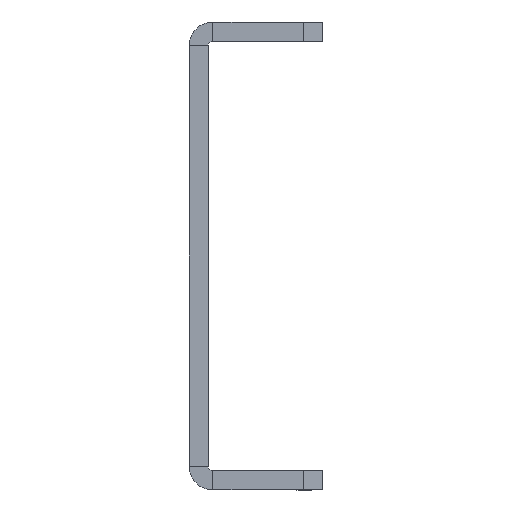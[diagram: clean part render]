
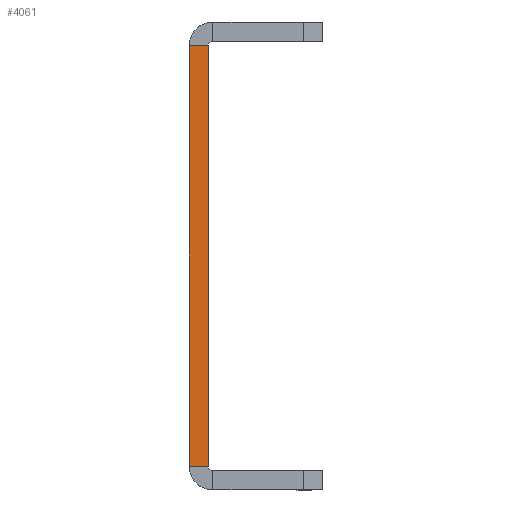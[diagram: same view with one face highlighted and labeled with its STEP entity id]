
A CAD part, left-side view. The second image highlights one B-rep face of the part: STEP entity #4061.
In plain terms, the highlighted planar face has unit normal (-1, 0, 0).
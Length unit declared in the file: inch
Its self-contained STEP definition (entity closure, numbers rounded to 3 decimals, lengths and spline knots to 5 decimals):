
#327=PLANE('',#4573);
#509=FACE_OUTER_BOUND('',#759,.T.);
#759=EDGE_LOOP('',(#3377,#3378,#3379,#3380));
#1205=LINE('',#6819,#1421);
#1206=LINE('',#6820,#1422);
#1207=LINE('',#6821,#1423);
#1208=LINE('',#6822,#1424);
#1421=VECTOR('',#5731,39.37008);
#1422=VECTOR('',#5732,39.37008);
#1423=VECTOR('',#5733,39.37008);
#1424=VECTOR('',#5734,39.37008);
#2106=VERTEX_POINT('',#6797);
#2107=VERTEX_POINT('',#6801);
#2111=VERTEX_POINT('',#6817);
#2112=VERTEX_POINT('',#6818);
#2621=EDGE_CURVE('',#2111,#2112,#1205,.T.);
#2622=EDGE_CURVE('',#2111,#2107,#1206,.T.);
#2623=EDGE_CURVE('',#2107,#2106,#1207,.T.);
#2624=EDGE_CURVE('',#2112,#2106,#1208,.T.);
#3377=ORIENTED_EDGE('',*,*,#2621,.F.);
#3378=ORIENTED_EDGE('',*,*,#2622,.T.);
#3379=ORIENTED_EDGE('',*,*,#2623,.T.);
#3380=ORIENTED_EDGE('',*,*,#2624,.F.);
#4061=ADVANCED_FACE('',(#509),#327,.F.);
#4573=AXIS2_PLACEMENT_3D('',#6816,#5729,#5730);
#5729=DIRECTION('center_axis',(1.,0.,0.));
#5730=DIRECTION('ref_axis',(0.,0.,1.));
#5731=DIRECTION('',(0.,1.,0.));
#5732=DIRECTION('',(0.,0.,1.));
#5733=DIRECTION('',(0.,1.,0.));
#5734=DIRECTION('',(0.,0.,1.));
#6797=CARTESIAN_POINT('',(0.,0.125,0.));
#6801=CARTESIAN_POINT('',(0.,0.,0.));
#6816=CARTESIAN_POINT('Origin',(0.,0.125,0.));
#6817=CARTESIAN_POINT('',(0.,0.,-2.75));
#6818=CARTESIAN_POINT('',(0.,0.125,-2.75));
#6819=CARTESIAN_POINT('',(0.,0.125,-2.75));
#6820=CARTESIAN_POINT('',(0.,0.,-2.75));
#6821=CARTESIAN_POINT('',(0.,0.125,0.));
#6822=CARTESIAN_POINT('',(0.,0.125,0.));
